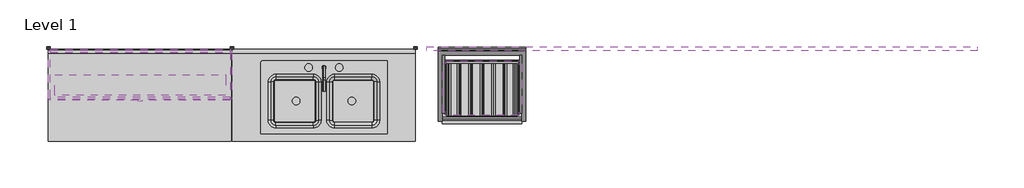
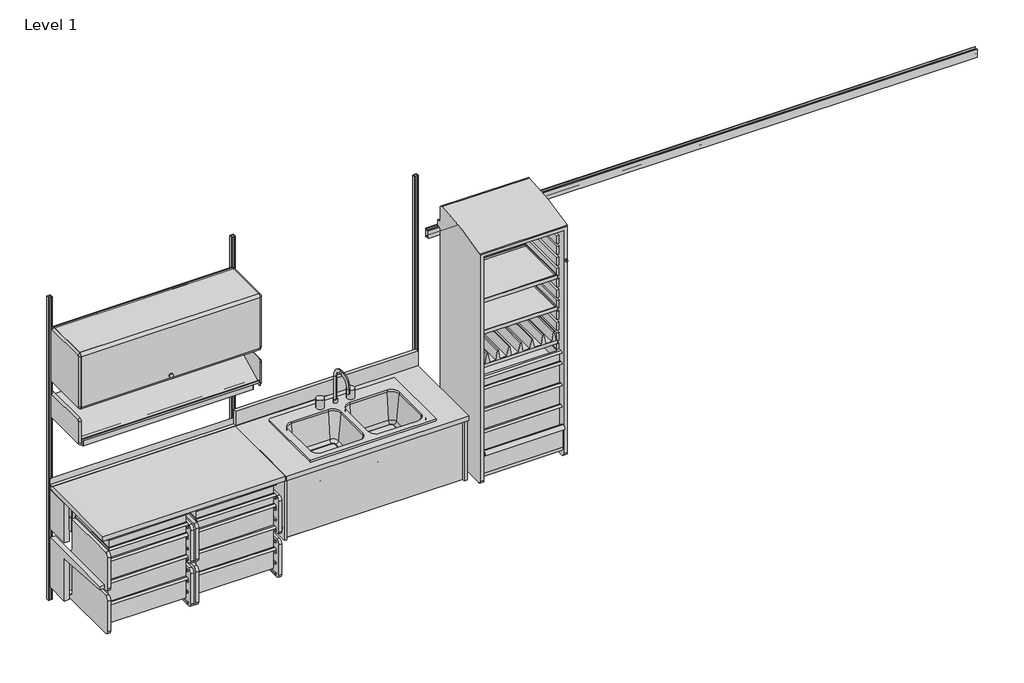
# One storey: 37 furniture elements, 1 light fixture.
"""IFC4 building model written with IfcOpenShell, lengths in millimetres."""

from ifc_helpers import new_model, si_unit, origin, place, context, project, spatial, transform, mapped, element, save
from components import furniture_d92eedc3, furniture_1dd29d47, furniture_6fb4d38e, furniture_1862b397, furniture_b82473b3, furniture_e3b85a83, furniture_ac9ddba1, furniture_b5d96ffa, furniture_ea4a19f1, furniture_bde3683d, furniture_de886b3f, furniture_abf15333, furniture_2c2a0f93, furniture_4a924b53, furniture_ebb16344, furniture_8d228605, furniture_ea425779, a_3_99eb42a9, a_3_20021f84, a_3_c1a7feba, b_6_ff784f8a, b_6_0a80589c, b_6_5c18262e, b_6_79354f33, b_6_c41737b1, b_6_7aba6d1f, b_6_3d2ec204, b_6_4c31ebbb, b_6_ad6fc926, standard_144w_a9847ba4, light_fixture_48w_for_action_office_09e55f13

model = new_model("IFC4")

# Units and contexts
model_context = context("Model", 3, world=origin())
ifc_project = project(units=[si_unit("LENGTHUNIT", "METRE", prefix="MILLI")], contexts=[model_context])

# Site, building, storey
site = spatial("IfcSite", under=ifc_project)
building = spatial("IfcBuilding", under=site)
storey = spatial("IfcBuildingStorey", under=building, Name="Level 1", Elevation=0.0)

# Furniture
placement = place(None, origin())
furniture_shape = furniture_d92eedc3(model_context)
element("IfcFurniture", 1, ObjectType="HermanMiller_CoStruc_C2910_WorkSurfaceBacksplash : 3\"H x 72\"W", at=placement, inside=storey, context=model_context, shape_type="MappedRepresentation", body=[
    mapped(furniture_shape, transform((914.4, -19.05, 0.0), x_axis=(1.0, 0.0, 0.0), y_axis=(0.0, 1.0, 0.0), z_axis=(0.0, 0.0, 1.0))),
])
furniture_2_shape = furniture_1dd29d47(model_context)
element("IfcFurniture", 2, ObjectType="HermanMiller_CoStruc_C2192_CFrameSupport : 11\"H x 24\"D x 48\"W", at=placement, inside=storey, context=model_context, shape_type="MappedRepresentation", body=[
    mapped(furniture_2_shape, transform((609.6, 107.15625, 0.0), x_axis=(1.0, 0.0, 0.0), y_axis=(0.0, 1.0, 0.0), z_axis=(0.0, 0.0, 1.0))),
])
furniture_3_shape = furniture_6fb4d38e(model_context)
element("IfcFurniture", 3, ObjectType="HermanMiller_CoStruc_CO242_Subdivider Vane : 2 5/8\"Hx13 3/4\"D x 18 1/2\"W", at=placement, inside=storey, context=model_context, shape_type="MappedRepresentation", body=[
    mapped(furniture_3_shape, transform((2880.5390317, -286.23514, 0.0), x_axis=(1.0, 0.0, 0.0), y_axis=(0.0, 1.0, 0.0), z_axis=(0.0, 0.0, 1.0))),
])
furniture_4_shape = furniture_1862b397(model_context)
element("IfcFurniture", 4, ObjectType="HermanMiller_CoStruc_CO203_CTrayShelf : 14\"D x 20\"W", at=placement, inside=storey, context=model_context, shape_type="MappedRepresentation", body=[
    mapped(furniture_4_shape, transform((2882.19388, -275.50364, 0.0), x_axis=(-1.0, 0.0, 0.0), y_axis=(0.0, -1.0, 0.0), z_axis=(0.0, 0.0, 1.0))),
])
furniture_5_shape = furniture_b82473b3(model_context)
element("IfcFurniture", 5, ObjectType="HermanMiller_CoStruc_CO203_CTrayShelf : 14\"D x 20\"W", at=placement, inside=storey, context=model_context, shape_type="MappedRepresentation", body=[
    mapped(furniture_5_shape, transform((2882.19388, -275.50364, 0.0), x_axis=(-1.0, 0.0, 0.0), y_axis=(0.0, -1.0, 0.0), z_axis=(0.0, 0.0, 1.0))),
])
furniture_6_shape = furniture_e3b85a83(model_context)
element("IfcFurniture", 6, ObjectType="HermanMiller_CoStruc_CO203_CTrayShelf : 14\"D x 20\"W", at=placement, inside=storey, context=model_context, shape_type="MappedRepresentation", body=[
    mapped(furniture_6_shape, transform((2882.19388, -275.50364, 0.0), x_axis=(-1.0, 0.0, 0.0), y_axis=(0.0, -1.0, 0.0), z_axis=(0.0, 0.0, 1.0))),
])
furniture_7_shape = furniture_ac9ddba1(model_context)
element("IfcFurniture", 7, ObjectType="HermanMiller_CoStruc_CO561_LockerWithTambourDoor : 66\"H x 20\"D x 22\"W Wlock", at=placement, inside=storey, context=model_context, shape_type="MappedRepresentation", body=[
    mapped(furniture_7_shape, transform((2880.54542, -249.27052, 0.0), x_axis=(1.0, 0.0, 0.0), y_axis=(0.0, 1.0, 0.0), z_axis=(0.0, 0.0, 1.0))),
])
furniture_8_shape = furniture_b5d96ffa(model_context)
element("IfcFurniture", 8, ObjectType="HermanMiller_CoStruc_C2142_StandardDutyWork Surface_WithSink : 24\"D x 48\"W Solid W/Dbl Sink", at=placement, inside=storey, context=model_context, shape_type="MappedRepresentation", body=[
    mapped(furniture_8_shape, transform((1828.8, -196.85, 0.0), x_axis=(1.0, 0.0, 0.0), y_axis=(0.0, 1.0, 0.0), z_axis=(0.0, 0.0, 1.0))),
])
furniture_9_shape = furniture_ea4a19f1(model_context)
element("IfcFurniture", 9, ObjectType="HermanMiller_CoStruc_C2512_SinkModule : 18\"H x 24\"D x 48\"W", at=placement, inside=storey, context=model_context, shape_type="MappedRepresentation", body=[
    mapped(furniture_9_shape, transform((1827.23536, -187.325, 0.0), x_axis=(1.0, 0.0, 0.0), y_axis=(0.0, 1.0, 0.0), z_axis=(0.0, 0.0, 1.0))),
])
furniture_10_shape = furniture_bde3683d(model_context)
element("IfcFurniture", 10, ObjectType="HermanMiller_CoStruc_CO205_CFrame : 10\"H x 17\"D x 22\"W", at=placement, inside=storey, context=model_context, shape_type="MappedRepresentation", body=[
    mapped(furniture_10_shape, transform((224.2132951, -271.6421197, 0.0), x_axis=(1.0, 0.0, 0.0), y_axis=(0.0, 1.0, 0.0), z_axis=(0.0, 0.0, 1.0))),
])
element("IfcFurniture", 11, ObjectType="HermanMiller_CoStruc_CO205_CFrame : 10\"H x 17\"D x 22\"W", at=placement, inside=storey, context=model_context, shape_type="MappedRepresentation", body=[
    mapped(furniture_10_shape, transform((810.0947751, -271.6421197, 0.0), x_axis=(1.0, 0.0, 0.0), y_axis=(0.0, 1.0, 0.0), z_axis=(0.0, 0.0, 1.0))),
])
furniture_11_shape = furniture_de886b3f(model_context)
element("IfcFurniture", 12, ObjectType="HermanMiller_CoStruc_C2141_Heavy-DutyWorkSurface : 24\"D x 48\"W Lam", at=placement, inside=storey, context=model_context, shape_type="MappedRepresentation", body=[
    mapped(furniture_11_shape, transform((303.23536, -196.85, 0.0), x_axis=(1.0, 0.0, 0.0), y_axis=(0.0, 1.0, 0.0), z_axis=(0.0, 0.0, 1.0))),
])
furniture_12_shape = furniture_abf15333(model_context)
element("IfcFurniture", 13, ObjectType="HermanMiller_CoStruc_C2140W_WorkSurfaceSupport_ComponentAdaptor : 14\"H x 24\"D x 48\"W", at=placement, inside=storey, context=model_context, shape_type="MappedRepresentation", body=[
    mapped(furniture_12_shape, transform((608.03536, -196.85, 0.0), x_axis=(1.0, 0.0, 0.0), y_axis=(0.0, 1.0, 0.0), z_axis=(0.0, 0.0, 1.0))),
])
furniture_13_shape = furniture_2c2a0f93(model_context)
element("IfcFurniture", 14, ObjectType="HermanMiller_CoStruc_CO205_CFrame : 10\"H x 17\"D x 22\"W", at=placement, inside=storey, context=model_context, shape_type="MappedRepresentation", body=[
    mapped(furniture_13_shape, transform((224.2132951, -271.6421197, 0.0), x_axis=(1.0, 0.0, 0.0), y_axis=(0.0, 1.0, 0.0), z_axis=(0.0, 0.0, 1.0))),
])
element("IfcFurniture", 15, ObjectType="HermanMiller_CoStruc_CO205_CFrame : 10\"H x 17\"D x 22\"W", at=placement, inside=storey, context=model_context, shape_type="MappedRepresentation", body=[
    mapped(furniture_13_shape, transform((810.0947751, -271.6421197, 0.0), x_axis=(1.0, 0.0, 0.0), y_axis=(0.0, 1.0, 0.0), z_axis=(0.0, 0.0, 1.0))),
])
furniture_14_shape = furniture_4a924b53(model_context)
element("IfcFurniture", 16, ObjectType="HermanMiller_ActionOffice_A3220_B-StyleStorageDisplay : Display 13\"D x 48\"W", at=placement, inside=storey, context=model_context, shape_type="MappedRepresentation", body=[
    mapped(furniture_14_shape, transform((733.5420045, -200.025, 0.0), x_axis=(1.0, 0.0, 0.0), y_axis=(0.0, 1.0, 0.0), z_axis=(0.0, 0.0, 1.0))),
])
furniture_15_shape = furniture_ebb16344(model_context)
element("IfcFurniture", 17, ObjectType="HermanMiller_ActionOffice_B-StyleFlipperDoor : Paint 15-1/2H x 13D x 48W", at=placement, inside=storey, context=model_context, shape_type="MappedRepresentation", body=[
    mapped(furniture_15_shape, transform((609.6, -200.025, 457.2), x_axis=(1.0, 0.0, 0.0), y_axis=(0.0, 1.0, 0.0), z_axis=(0.0, 0.0, 1.0))),
])
furniture_16_shape = furniture_8d228605(model_context)
element("IfcFurniture", 18, ObjectType="HermanMiller_CoStruc_B-StyleShelf : 15-1/2H x 13D x 48W", at=placement, inside=storey, context=model_context, shape_type="MappedRepresentation", body=[
    mapped(furniture_16_shape, transform((733.5420045, -200.025, 457.2), x_axis=(1.0, 0.0, 0.0), y_axis=(0.0, 1.0, 0.0), z_axis=(0.0, 0.0, 1.0))),
])
furniture_17_shape = furniture_ea425779(model_context)
element("IfcFurniture", 19, ObjectType="HermanMiller_ActionOffice_AO213_WallStrip : 84\"H", at=placement, inside=storey, context=model_context, shape_type="MappedRepresentation", body=[
    mapped(furniture_17_shape, transform((2438.4, 0.0, 0.0), x_axis=(1.0, 0.0, 0.0), y_axis=(0.0, 1.0, 0.0), z_axis=(0.0, 0.0, 1.0))),
])
element("IfcFurniture", 20, ObjectType="HermanMiller_ActionOffice_AO213_WallStrip : 84\"H", at=placement, inside=storey, context=model_context, shape_type="MappedRepresentation", body=[
    mapped(furniture_17_shape, transform((0.0, 0.0, 0.0), x_axis=(1.0, 0.0, 0.0), y_axis=(0.0, 1.0, 0.0), z_axis=(0.0, 0.0, 1.0))),
])
element("IfcFurniture", 21, ObjectType="HermanMiller_ActionOffice_AO213_WallStrip : 84\"H", at=placement, inside=storey, context=model_context, shape_type="MappedRepresentation", body=[
    mapped(furniture_17_shape, transform((1219.2, 0.0, 0.0), x_axis=(1.0, 0.0, 0.0), y_axis=(0.0, 1.0, 0.0), z_axis=(0.0, 0.0, 1.0))),
])
a_3_shape = a_3_99eb42a9(model_context)
element("IfcFurniture", 22, ObjectType="HermanMiller_CoStruc_CO207_Drawer : A - 3", at=placement, inside=storey, context=model_context, shape_type="MappedRepresentation", body=[
    mapped(a_3_shape, transform((2880.5390317, -285.05404, 0.0), x_axis=(1.0, 0.0, 0.0), y_axis=(0.0, 1.0, 0.0), z_axis=(0.0, 0.0, 1.0))),
])
a_3_2_shape = a_3_20021f84(model_context)
element("IfcFurniture", 23, ObjectType="HermanMiller_CoStruc_CO207_Drawer : A - 3", at=placement, inside=storey, context=model_context, shape_type="MappedRepresentation", body=[
    mapped(a_3_2_shape, transform((898.1833317, -419.20922, 0.0), x_axis=(1.0, 0.0, 0.0), y_axis=(0.0, 1.0, 0.0), z_axis=(0.0, 0.0, 1.0))),
])
element("IfcFurniture", 24, ObjectType="HermanMiller_CoStruc_CO207_Drawer : A - 3", at=placement, inside=storey, context=model_context, shape_type="MappedRepresentation", body=[
    mapped(a_3_2_shape, transform((313.8893517, -419.20922, 0.0), x_axis=(1.0, 0.0, 0.0), y_axis=(0.0, 1.0, 0.0), z_axis=(0.0, 0.0, 1.0))),
])
a_3_3_shape = a_3_c1a7feba(model_context)
element("IfcFurniture", 25, ObjectType="HermanMiller_CoStruc_CO207_Drawer : A - 3", at=placement, inside=storey, context=model_context, shape_type="MappedRepresentation", body=[
    mapped(a_3_3_shape, transform((898.1833317, -419.20922, 0.0), x_axis=(1.0, 0.0, 0.0), y_axis=(0.0, 1.0, 0.0), z_axis=(0.0, 0.0, 1.0))),
])
element("IfcFurniture", 26, ObjectType="HermanMiller_CoStruc_CO207_Drawer : A - 3", at=placement, inside=storey, context=model_context, shape_type="MappedRepresentation", body=[
    mapped(a_3_3_shape, transform((313.8893517, -419.20922, 0.0), x_axis=(1.0, 0.0, 0.0), y_axis=(0.0, 1.0, 0.0), z_axis=(0.0, 0.0, 1.0))),
])
b_6_shape = b_6_ff784f8a(model_context)
element("IfcFurniture", 27, ObjectType="HermanMiller_CoStruc_CO207_Drawer : B - 6", at=placement, inside=storey, context=model_context, shape_type="MappedRepresentation", body=[
    mapped(b_6_shape, transform((2880.5390317, -285.05404, 0.0), x_axis=(1.0, 0.0, 0.0), y_axis=(0.0, 1.0, 0.0), z_axis=(0.0, 0.0, 1.0))),
])
b_6_2_shape = b_6_0a80589c(model_context)
element("IfcFurniture", 28, ObjectType="HermanMiller_CoStruc_CO207_Drawer : B - 6", at=placement, inside=storey, context=model_context, shape_type="MappedRepresentation", body=[
    mapped(b_6_2_shape, transform((2880.5390317, -285.05404, 0.0), x_axis=(1.0, 0.0, 0.0), y_axis=(0.0, 1.0, 0.0), z_axis=(0.0, 0.0, 1.0))),
])
b_6_3_shape = b_6_5c18262e(model_context)
element("IfcFurniture", 29, ObjectType="HermanMiller_CoStruc_CO207_Drawer : B - 6", at=placement, inside=storey, context=model_context, shape_type="MappedRepresentation", body=[
    mapped(b_6_3_shape, transform((2880.5390317, -285.05404, 0.0), x_axis=(1.0, 0.0, 0.0), y_axis=(0.0, 1.0, 0.0), z_axis=(0.0, 0.0, 1.0))),
])
b_6_4_shape = b_6_79354f33(model_context)
element("IfcFurniture", 30, ObjectType="HermanMiller_CoStruc_CO207_Drawer : B - 6", at=placement, inside=storey, context=model_context, shape_type="MappedRepresentation", body=[
    mapped(b_6_4_shape, transform((2880.5390317, -285.05404, 0.0), x_axis=(1.0, 0.0, 0.0), y_axis=(0.0, 1.0, 0.0), z_axis=(0.0, 0.0, 1.0))),
])
b_6_5_shape = b_6_c41737b1(model_context)
element("IfcFurniture", 31, ObjectType="HermanMiller_CoStruc_CO207_Drawer : B - 6", at=placement, inside=storey, context=model_context, shape_type="MappedRepresentation", body=[
    mapped(b_6_5_shape, transform((898.1833317, -419.20922, 0.0), x_axis=(1.0, 0.0, 0.0), y_axis=(0.0, 1.0, 0.0), z_axis=(0.0, 0.0, 1.0))),
])
b_6_6_shape = b_6_7aba6d1f(model_context)
element("IfcFurniture", 32, ObjectType="HermanMiller_CoStruc_CO207_Drawer : B - 6", at=placement, inside=storey, context=model_context, shape_type="MappedRepresentation", body=[
    mapped(b_6_6_shape, transform((898.1833317, -419.20922, 0.0), x_axis=(1.0, 0.0, 0.0), y_axis=(0.0, 1.0, 0.0), z_axis=(0.0, 0.0, 1.0))),
])
b_6_7_shape = b_6_3d2ec204(model_context)
element("IfcFurniture", 33, ObjectType="HermanMiller_CoStruc_CO207_Drawer : B - 6", at=placement, inside=storey, context=model_context, shape_type="MappedRepresentation", body=[
    mapped(b_6_7_shape, transform((898.1833317, -419.20922, 0.0), x_axis=(1.0, 0.0, 0.0), y_axis=(0.0, 1.0, 0.0), z_axis=(0.0, 0.0, 1.0))),
])
element("IfcFurniture", 34, ObjectType="HermanMiller_CoStruc_CO207_Drawer : B - 6", at=placement, inside=storey, context=model_context, shape_type="MappedRepresentation", body=[
    mapped(b_6_7_shape, transform((313.8893517, -419.20922, 0.0), x_axis=(1.0, 0.0, 0.0), y_axis=(0.0, 1.0, 0.0), z_axis=(0.0, 0.0, 1.0))),
])
b_6_8_shape = b_6_4c31ebbb(model_context)
element("IfcFurniture", 35, ObjectType="HermanMiller_CoStruc_CO207_Drawer : B - 6", at=placement, inside=storey, context=model_context, shape_type="MappedRepresentation", body=[
    mapped(b_6_8_shape, transform((312.3018517, -419.20922, 0.0), x_axis=(1.0, 0.0, 0.0), y_axis=(0.0, 1.0, 0.0), z_axis=(0.0, 0.0, 1.0))),
])
b_6_9_shape = b_6_ad6fc926(model_context)
element("IfcFurniture", 36, ObjectType="HermanMiller_CoStruc_CO207_Drawer : B - 6", at=placement, inside=storey, context=model_context, shape_type="MappedRepresentation", body=[
    mapped(b_6_9_shape, transform((312.3018517, -419.20922, 0.0), x_axis=(1.0, 0.0, 0.0), y_axis=(0.0, 1.0, 0.0), z_axis=(0.0, 0.0, 1.0))),
])
standard_144w_shape = standard_144w_a9847ba4(model_context)
element("IfcFurniture", 37, ObjectType="HermanMiller_CoStruc_CO282_StandardRail : Standard 144W", at=placement, inside=storey, context=model_context, shape_type="MappedRepresentation", body=[
    mapped(standard_144w_shape, transform((4410.7205525, 0.0, 0.0), x_axis=(1.0, 0.0, 0.0), y_axis=(0.0, 1.0, 0.0), z_axis=(0.0, 0.0, 1.0))),
])

# Light fixture
light_fixture_48w_for_action_office_shape = light_fixture_48w_for_action_office_09e55f13(model_context)
element("IfcLightFixture", 38, ObjectType="HermanMiller_SupplementalProducts_G6170_EUnderShelfLEDTaskLight : 48W for Action Office", at=placement, inside=storey, context=model_context, shape_type="MappedRepresentation", body=[
    mapped(light_fixture_48w_for_action_office_shape, transform((609.6, -255.524, 175.6679666), x_axis=(1.0, 0.0, 0.0), y_axis=(0.0, 1.0, 0.0), z_axis=(0.0, 0.0, 1.0))),
])

save(model, "model.ifc")
